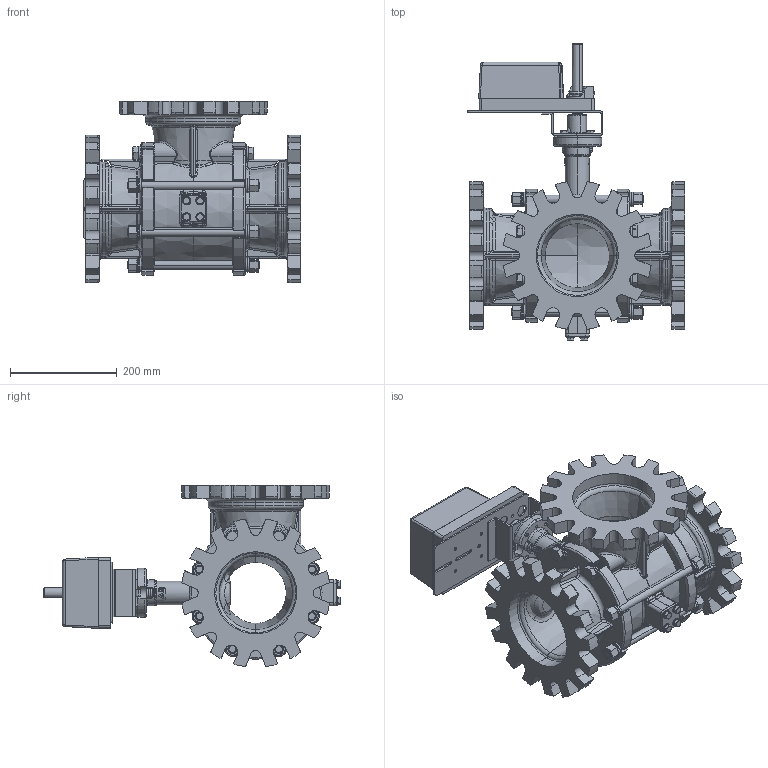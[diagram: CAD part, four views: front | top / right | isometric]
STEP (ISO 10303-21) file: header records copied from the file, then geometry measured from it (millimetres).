
FILE_DESCRIPTION (( 'STEP AP203' ), '1' );
FILE_NAME ('F3WR.L.x.1.70.step', '2024-04-24T07:51:22', ( '' ), ( '' ), 'SwSTEP 2.0', 'SolidWorks 2023', '' );
FILE_SCHEMA (( 'CONFIG_CONTROL_DESIGN' ));
Products named in the file (1): F3WR.L.x.1.70
Bounding box: 408 x 557.07 x 340.03 mm (x, y, z)
Surface area: 1177989.4 mm2 (no closed solid volume)
Topology: 0 solids, 121 shells, 2007 faces, 5567 edges, 3608 vertices
Faces by surface type: cylinder 653, plane 503, torus 298, cone 296, bspline 257
Entity records: 88112 total; most frequent: CARTESIAN_POINT 39612, DIRECTION 9958, ORIENTED_EDGE 9782, EDGE_CURVE 5547, AXIS2_PLACEMENT_3D 4027, VERTEX_POINT 3608, CIRCLE 2276, EDGE_LOOP 2158
